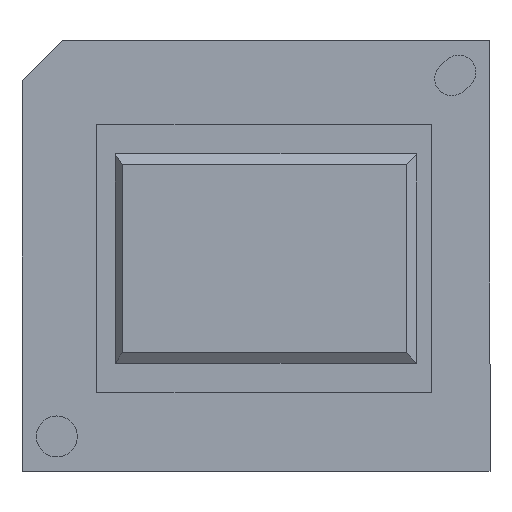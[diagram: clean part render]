
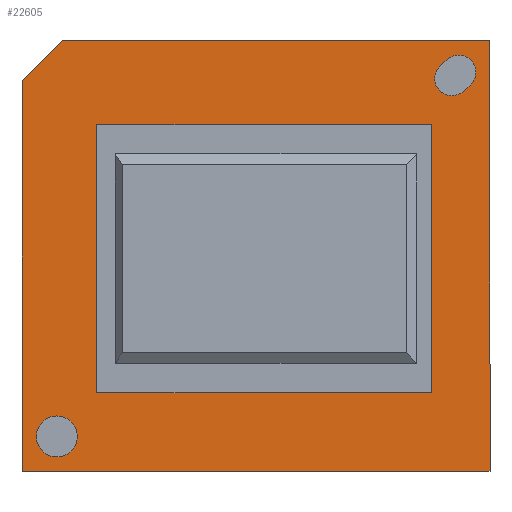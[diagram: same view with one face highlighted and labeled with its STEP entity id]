
A CAD part, top view. The second image highlights one B-rep face of the part: STEP entity #22605.
In plain terms, the highlighted planar face has unit normal (0, 0, 1).
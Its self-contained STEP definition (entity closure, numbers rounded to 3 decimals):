
#202=CARTESIAN_POINT('',(13.137,-10.236,2.95));
#203=VERTEX_POINT('',#202);
#210=CARTESIAN_POINT('',(13.137,9.83,2.95));
#211=VERTEX_POINT('',#210);
#212=CARTESIAN_POINT('',(13.137,9.83,2.95));
#213=DIRECTION('',(0.0,-1.0,0.0));
#214=VECTOR('',#213,20.066);
#215=LINE('',#212,#214);
#216=EDGE_CURVE('',#211,#203,#215,.T.);
#314=CARTESIAN_POINT('',(-11.906,9.83,2.95));
#315=VERTEX_POINT('',#314);
#322=CARTESIAN_POINT('',(-11.906,-10.236,2.95));
#323=VERTEX_POINT('',#322);
#324=CARTESIAN_POINT('',(-11.906,-10.236,2.95));
#325=DIRECTION('',(0.0,1.0,0.0));
#326=VECTOR('',#325,20.066);
#327=LINE('',#324,#326);
#328=EDGE_CURVE('',#323,#315,#327,.T.);
#11231=CARTESIAN_POINT('',(14.298,14.685,2.95));
#11232=VERTEX_POINT('',#11231);
#11239=CARTESIAN_POINT('',(13.78,14.215,2.95));
#11240=VERTEX_POINT('',#11239);
#11241=CARTESIAN_POINT('',(13.78,14.215,2.95));
#11242=DIRECTION('',(0.741,0.671,0.0));
#11243=VECTOR('',#11242,0.7);
#11244=LINE('',#11241,#11243);
#11245=EDGE_CURVE('',#11240,#11232,#11244,.T.);
#11262=CARTESIAN_POINT('',(16.02,12.785,2.95));
#11263=VERTEX_POINT('',#11262);
#11270=CARTESIAN_POINT('',(15.159,13.735,2.95));
#11271=DIRECTION('',(0.0,0.0,-1.));
#11272=DIRECTION('',(0.671,-0.741,0.0));
#11273=AXIS2_PLACEMENT_3D('',#11270,#11271,#11272);
#11274=CIRCLE('',#11273,1.283);
#11275=EDGE_CURVE('',#11232,#11263,#11274,.T.);
#11288=CARTESIAN_POINT('',(13.137,-10.236,2.95));
#11289=DIRECTION('',(-1.0,0.0,0.0));
#11290=VECTOR('',#11289,25.043);
#11291=LINE('',#11288,#11290);
#11292=EDGE_CURVE('',#203,#323,#11291,.T.);
#11305=CARTESIAN_POINT('',(-11.906,9.83,2.95));
#11306=DIRECTION('',(1.0,0.0,0.0));
#11307=VECTOR('',#11306,25.043);
#11308=LINE('',#11305,#11307);
#11309=EDGE_CURVE('',#315,#211,#11308,.T.);
#20919=CARTESIAN_POINT('',(-17.5,13.1,2.95));
#20920=VERTEX_POINT('',#20919);
#20921=CARTESIAN_POINT('',(-14.5,16.1,2.95));
#20922=VERTEX_POINT('',#20921);
#20923=CARTESIAN_POINT('',(-17.5,13.1,2.95));
#20924=DIRECTION('',(0.707,0.707,0.0));
#20925=VECTOR('',#20924,4.243);
#20926=LINE('',#20923,#20925);
#20927=EDGE_CURVE('',#20920,#20922,#20926,.T.);
#22049=CARTESIAN_POINT('',(17.5,16.1,2.95));
#22050=VERTEX_POINT('',#22049);
#22051=CARTESIAN_POINT('',(-14.5,16.1,2.95));
#22052=DIRECTION('',(1.0,0.0,0.0));
#22053=VECTOR('',#22052,32.0);
#22054=LINE('',#22051,#22053);
#22055=EDGE_CURVE('',#20922,#22050,#22054,.T.);
#22436=CARTESIAN_POINT('',(15.502,12.315,2.95));
#22437=VERTEX_POINT('',#22436);
#22444=CARTESIAN_POINT('',(16.02,12.785,2.95));
#22445=DIRECTION('',(-0.741,-0.671,0.0));
#22446=VECTOR('',#22445,0.7);
#22447=LINE('',#22444,#22446);
#22448=EDGE_CURVE('',#11263,#22437,#22447,.T.);
#22461=CARTESIAN_POINT('',(14.641,13.265,2.95));
#22462=DIRECTION('',(0.0,0.0,-1.));
#22463=DIRECTION('',(-0.671,0.741,0.0));
#22464=AXIS2_PLACEMENT_3D('',#22461,#22462,#22463);
#22465=CIRCLE('',#22464,1.283);
#22466=EDGE_CURVE('',#22437,#11240,#22465,.T.);
#22492=CARTESIAN_POINT('',(-13.367,-13.5,2.95));
#22493=VERTEX_POINT('',#22492);
#22494=CARTESIAN_POINT('',(-14.9,-13.5,2.95));
#22495=DIRECTION('',(0.0,0.0,-1.0));
#22496=DIRECTION('',(-1.0,0.0,0.0));
#22497=AXIS2_PLACEMENT_3D('',#22494,#22495,#22496);
#22498=CIRCLE('',#22497,1.533);
#22499=EDGE_CURVE('',#22493,#22493,#22498,.T.);
#22520=CARTESIAN_POINT('',(-17.5,-16.1,2.95));
#22521=VERTEX_POINT('',#22520);
#22528=CARTESIAN_POINT('',(-17.5,-16.1,2.95));
#22529=DIRECTION('',(0.0,1.0,0.0));
#22530=VECTOR('',#22529,29.2);
#22531=LINE('',#22528,#22530);
#22532=EDGE_CURVE('',#22521,#20920,#22531,.T.);
#22542=CARTESIAN_POINT('',(17.5,-16.1,2.95));
#22543=VERTEX_POINT('',#22542);
#22544=CARTESIAN_POINT('',(17.5,16.1,2.95));
#22545=DIRECTION('',(0.0,-1.0,0.0));
#22546=VECTOR('',#22545,32.2);
#22547=LINE('',#22544,#22546);
#22548=EDGE_CURVE('',#22050,#22543,#22547,.T.);
#22566=CARTESIAN_POINT('',(17.5,-16.1,2.95));
#22567=DIRECTION('',(-1.0,0.0,0.0));
#22568=VECTOR('',#22567,35.0);
#22569=LINE('',#22566,#22568);
#22570=EDGE_CURVE('',#22543,#22521,#22569,.T.);
#22578=CARTESIAN_POINT('',(0.,0.,2.95));
#22579=DIRECTION('',(0.0,0.0,1.0));
#22580=DIRECTION('',(1.0,0.0,0.0));
#22581=AXIS2_PLACEMENT_3D('',#22578,#22579,#22580);
#22582=PLANE('',#22581);
#22583=ORIENTED_EDGE('',*,*,#20927,.F.);
#22584=ORIENTED_EDGE('',*,*,#22532,.F.);
#22585=ORIENTED_EDGE('',*,*,#22570,.F.);
#22586=ORIENTED_EDGE('',*,*,#22548,.F.);
#22587=ORIENTED_EDGE('',*,*,#22055,.F.);
#22588=EDGE_LOOP('',(#22583,#22584,#22585,#22586,#22587));
#22589=FACE_OUTER_BOUND('',#22588,.T.);
#22590=ORIENTED_EDGE('',*,*,#216,.T.);
#22591=ORIENTED_EDGE('',*,*,#11292,.T.);
#22592=ORIENTED_EDGE('',*,*,#328,.T.);
#22593=ORIENTED_EDGE('',*,*,#11309,.T.);
#22594=EDGE_LOOP('',(#22590,#22591,#22592,#22593));
#22595=FACE_BOUND('',#22594,.T.);
#22596=ORIENTED_EDGE('',*,*,#22448,.T.);
#22597=ORIENTED_EDGE('',*,*,#22466,.T.);
#22598=ORIENTED_EDGE('',*,*,#11245,.T.);
#22599=ORIENTED_EDGE('',*,*,#11275,.T.);
#22600=EDGE_LOOP('',(#22596,#22597,#22598,#22599));
#22601=FACE_BOUND('',#22600,.T.);
#22602=ORIENTED_EDGE('',*,*,#22499,.T.);
#22603=EDGE_LOOP('',(#22602));
#22604=FACE_BOUND('',#22603,.T.);
#22605=ADVANCED_FACE('',(#22589,#22595,#22601,#22604),#22582,.T.);
